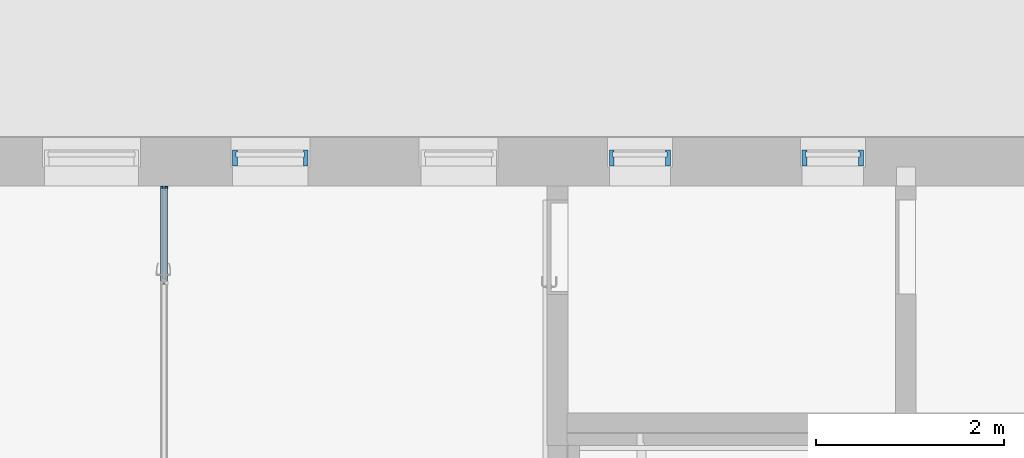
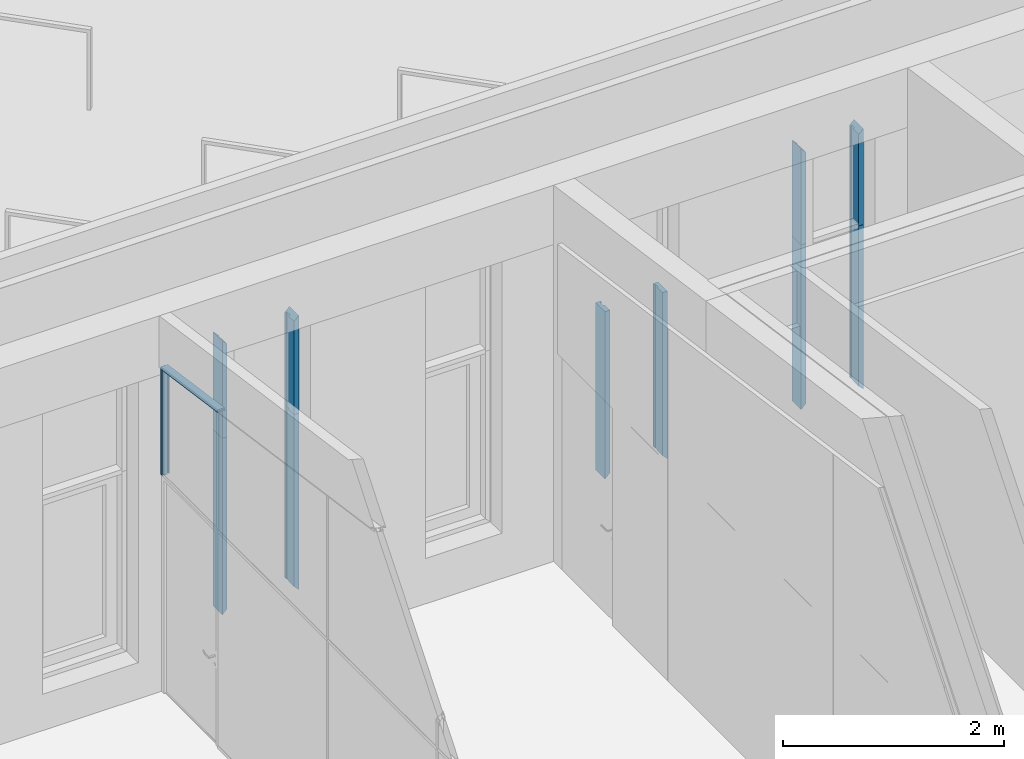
# One storey, part 78 of 246: 12 members, 4 elements without a shape of their own.
"""IFC2X3 building model written with IfcOpenShell, lengths in millimetres."""

from ifc_helpers import new_model, entity, si_unit, converted_unit, derived_unit, money_unit, direction, frame, origin_with_axes, place, context, subcontext, project, spatial, faceted_brep, material, material_list, type_object, element, aggregate, save


model = new_model("IFC2X3")

# Units and contexts
model_context = context("Model", 3, precision=0.01, world=origin_with_axes(), true_north=direction((0.0, 1.0)))
body_context = subcontext(model_context, "Body", "Model", "MODEL_VIEW")
ifc_project = project(units=[si_unit("LENGTHUNIT", "METRE", prefix="MILLI"), si_unit("AREAUNIT", "SQUARE_METRE"), si_unit("VOLUMEUNIT", "CUBIC_METRE"), converted_unit("PLANEANGLEUNIT", "DEGREE", entity("IfcPlaneAngleMeasure", 0.0174532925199), si_unit("PLANEANGLEUNIT", "RADIAN"), dimensions=[0, 0, 0, 0, 0, 0, 0]), si_unit("SOLIDANGLEUNIT", "STERADIAN"), money_unit("EUR"), converted_unit("TIMEUNIT", "Year", entity("IfcTimeMeasure", 31556926.0), si_unit("TIMEUNIT", "SECOND"), dimensions=[0, 0, 1, 0, 0, 0, 0]), si_unit("MASSUNIT", "GRAM", prefix="KILO"), si_unit("THERMODYNAMICTEMPERATUREUNIT", "DEGREE_CELSIUS"), si_unit("LUMINOUSINTENSITYUNIT", "LUMEN"), si_unit("ENERGYUNIT", "JOULE", prefix="MEGA"), derived_unit("THERMALCONDUCTANCEUNIT", [(si_unit("POWERUNIT", "WATT"), 1), (si_unit("LENGTHUNIT", "METRE"), -1), (si_unit("THERMODYNAMICTEMPERATUREUNIT", "KELVIN"), -1)]), derived_unit("SPECIFICHEATCAPACITYUNIT", [(si_unit("ENERGYUNIT", "JOULE"), 1), (si_unit("MASSUNIT", "GRAM", prefix="KILO"), -1), (si_unit("THERMODYNAMICTEMPERATUREUNIT", "KELVIN"), -1)]), derived_unit("MASSDENSITYUNIT", [(si_unit("MASSUNIT", "GRAM", prefix="KILO"), 1), (si_unit("VOLUMEUNIT", "CUBIC_METRE"), -1)])], contexts=[model_context])

# Site, building, storey
site_placement = place(None, origin_with_axes())
site = spatial("IfcSite", under=ifc_project, at=site_placement, Name="L.Koidula tn 11b", CompositionType="ELEMENT")
building_placement = place(site_placement, origin_with_axes())
building = spatial("IfcBuilding", under=site, at=building_placement, Name="Rakvere Riigigümnaasium", CompositionType="ELEMENT")
storey_placement = place(building_placement, origin_with_axes())
storey = spatial("IfcBuildingStorey", under=building, at=storey_placement, Name="1.korrus 0,00", CompositionType="ELEMENT", Elevation=0.0)

# Curtain wall, members
curtain_wall_type = type_object("IfcCurtainWallType", Name="Curtain Wall Type", PredefinedType="NOTDEFINED")
curtain_wall_1_placement = place(storey_placement, frame((39944.5199736, 71934.4519938, 599.999957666), z_axis=(0.0, 0.0, 1.0), x_axis=(1.0, 0.0, 0.0)))
curtain_wall_1 = element("IfcCurtainWall", 1, at=curtain_wall_1_placement, inside=storey, type_object=curtain_wall_type, Name="KLF-08-10")
ifc_material_1 = material(Name="Alumiiniumprofiil (RAL 7021)")
member_type_1 = type_object("IfcMemberType", Name="Boundary Frame 50 x 170", PredefinedType="MULLION")
member_1_placement = place(curtain_wall_1_placement, frame((-324.999965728, 0.0, 2879.66169896), z_axis=(-1.90892556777e-08, 0.0, -1.0), x_axis=(1.0, 0.0, -1.90892556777e-08)))
member_1 = element("IfcMember", 2, at=member_1_placement, type_object=member_type_1, material=ifc_material_1, Name="KLF-08-48-Profiilid", ObjectType="MULLION", context=body_context, shape_type="Brep", body=[
    faceted_brep([(37.0000202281, 26.0, 1059.66152683), (50.0000202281, 26.0, 1059.66152658), (50.0000202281, 124.0, 1059.66152658), (2.02281498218e-05, 124.0, 1059.66152754), (2.02281498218e-05, -46.0, 1059.66152754), (50.0000202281, -46.0, 1059.66152658), (50.0000202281, -26.0, 1059.66152658), (37.0000202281, -26.0, 1059.66152683), (37.0000007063, 26.0, 36.9999985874), (50.0000009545, 26.0, 49.9999980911), (50.0000009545, 124.0, 49.9999980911), (0.0, 124.0, 0.0), (0.0, -46.0, 0.0), (50.0000009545, -46.0, 49.9999980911), (50.0000009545, -26.0, 49.9999980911), (37.0000007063, -26.0, 36.9999985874)], [[[0, 1, 2, 3, 4, 5, 6, 7]], [[0, 8, 9, 1]], [[9, 10, 2, 1]], [[2, 10, 11, 3]], [[3, 11, 12, 4]], [[4, 12, 13, 5]], [[6, 5, 13, 14]], [[14, 15, 7, 6]], [[7, 15, 8, 0]], [[8, 15, 14, 13, 12, 11, 10, 9]]]),
])
member_2_placement = place(curtain_wall_1_placement, frame((-324.999985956, 0.0, 1820.0001719), z_axis=(0.0, 0.0, -1.0), x_axis=(1.0, 0.0, 0.0)))
member_2 = element("IfcMember", 3, at=member_2_placement, type_object=member_type_1, material=ifc_material_1, Name="KLF-08-43-Profiilid", ObjectType="MULLION", context=body_context, shape_type="Brep", body=[
    faceted_brep([(37.0, 26.0, 1783.0001719), (50.0, 26.0, 1770.0001719), (50.0, 124.0, 1770.0001719), (0.0, 124.0, 1820.0001719), (0.0, -46.0, 1820.0001719), (50.0, -46.0, 1770.0001719), (50.0, -26.0, 1770.0001719), (37.0, -26.0, 1783.0001719), (37.0, 26.0, -4.77231143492e-07), (50.0, 26.0, -4.77231143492e-07), (50.0, 124.0, -4.77231143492e-07), (0.0, 124.0, -4.77231143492e-07), (0.0, -46.0, -4.77231143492e-07), (50.0, -46.0, -4.77231143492e-07), (50.0, -26.0, -4.77231143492e-07), (37.0, -26.0, -4.77231143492e-07)], [[[0, 1, 2, 3, 4, 5, 6, 7]], [[0, 8, 9, 1]], [[9, 10, 2, 1]], [[10, 11, 3, 2]], [[11, 12, 4, 3]], [[12, 13, 5, 4]], [[6, 5, 13, 14]], [[14, 15, 7, 6]], [[7, 15, 8, 0]], [[8, 15, 14, 13, 12, 11, 10, 9]]]),
])
member_3_placement = place(curtain_wall_1_placement, frame((324.999975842, 0.0, 1820.0001719), z_axis=(0.0, 0.0, 1.0), x_axis=(-1.0, 0.0, 0.0)))
member_3 = element("IfcMember", 4, at=member_3_placement, type_object=member_type_1, material=ifc_material_1, Name="KLF-08-46-Profiilid", ObjectType="MULLION", context=body_context, shape_type="Brep", body=[
    faceted_brep([(37.0, 26.0, 1022.66152706), (50.0, 26.0, 1009.66152706), (50.0, 124.0, 1009.66152706), (0.0, 124.0, 1059.66152706), (0.0, -46.0, 1059.66152706), (50.0, -46.0, 1009.66152706), (50.0, -26.0, 1009.66152706), (37.0, -26.0, 1022.66152706), (37.0, 26.0, -1.19992460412e-07), (50.0, 26.0, -1.19992460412e-07), (50.0, 124.0, -1.19992460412e-07), (0.0, 124.0, -1.19992460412e-07), (0.0, -46.0, -1.19992460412e-07), (50.0, -46.0, -1.19992460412e-07), (50.0, -26.0, -1.19992460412e-07), (37.0, -26.0, -1.19992460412e-07)], [[[0, 1, 2, 3, 4, 5, 6, 7]], [[0, 8, 9, 1]], [[9, 10, 2, 1]], [[10, 11, 3, 2]], [[11, 12, 4, 3]], [[12, 13, 5, 4]], [[6, 5, 13, 14]], [[14, 15, 7, 6]], [[7, 15, 8, 0]], [[8, 15, 14, 13, 12, 11, 10, 9]]]),
])
member_4_placement = place(curtain_wall_1_placement, frame((324.999984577, 0.0, 0.0), z_axis=(-4.79970011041e-09, 0.0, 1.0), x_axis=(-1.0, 0.0, -4.79970011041e-09)))
member_4 = element("IfcMember", 5, at=member_4_placement, type_object=member_type_1, material=ifc_material_1, Name="KLF-08-45-Profiilid", ObjectType="MULLION", context=body_context, shape_type="Brep", body=[
    faceted_brep([(36.9999912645, 26.0, 1820.0001722), (49.9999912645, 26.0, 1820.00017226), (49.9999912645, 124.0, 1820.00017226), (-8.735455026e-06, 124.0, 1820.00017202), (-8.735455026e-06, -46.0, 1820.00017202), (49.9999912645, -46.0, 1820.00017226), (49.9999912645, -26.0, 1820.00017226), (36.9999912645, -26.0, 1820.0001722), (36.9999998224, 26.0, 37.0000003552), (49.99999976, 26.0, 50.00000048), (49.99999976, 124.0, 50.00000048), (0.0, 124.0, 0.0), (0.0, -46.0, 0.0), (49.99999976, -46.0, 50.00000048), (49.99999976, -26.0, 50.00000048), (36.9999998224, -26.0, 37.0000003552)], [[[0, 1, 2, 3, 4, 5, 6, 7]], [[0, 8, 9, 1]], [[9, 10, 2, 1]], [[2, 10, 11, 3]], [[3, 11, 12, 4]], [[4, 12, 13, 5]], [[6, 5, 13, 14]], [[14, 15, 7, 6]], [[7, 15, 8, 0]], [[8, 15, 14, 13, 12, 11, 10, 9]]]),
])
aggregate(curtain_wall_1, [member_1, member_2, member_3, member_4])

curtain_wall_2_placement = place(storey_placement, frame((33969.5426693, 71934.5046172, 450.0), z_axis=(0.0, 0.0, 1.0), x_axis=(1.0, 0.0, 0.0)))
curtain_wall_2 = element("IfcCurtainWall", 6, at=curtain_wall_2_placement, inside=storey, type_object=curtain_wall_type, Name="KLF-08-07")
member_5_placement = place(curtain_wall_2_placement, frame((-400.003558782, 0.0, 3029.66153933), z_axis=(-1.30369472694e-08, 0.0, -1.0), x_axis=(1.0, 0.0, -1.30369472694e-08)))
member_5 = element("IfcMember", 7, at=member_5_placement, type_object=member_type_1, material=ifc_material_1, Name="KLF-08-58-Profiilid", ObjectType="MULLION", context=body_context, shape_type="Brep", body=[
    faceted_brep([(37.0000140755, 26.0, 1079.66143651), (50.0000140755, 26.0, 1079.66143634), (50.0000140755, 124.0, 1079.66143634), (1.40754892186e-05, 124.0, 1079.66143699), (1.40754892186e-05, -46.0, 1079.66143699), (50.0000140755, -46.0, 1079.66143634), (50.0000140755, -26.0, 1079.66143634), (37.0000140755, -26.0, 1079.66143651), (37.0000004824, 26.0, 36.9999990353), (50.0000006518, 26.0, 49.9999986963), (50.0000006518, 124.0, 49.9999986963), (0.0, 124.0, 0.0), (0.0, -46.0, 0.0), (50.0000006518, -46.0, 49.9999986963), (50.0000006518, -26.0, 49.9999986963), (37.0000004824, -26.0, 36.9999990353)], [[[0, 1, 2, 3, 4, 5, 6, 7]], [[0, 8, 9, 1]], [[9, 10, 2, 1]], [[2, 10, 11, 3]], [[3, 11, 12, 4]], [[4, 12, 13, 5]], [[6, 5, 13, 14]], [[14, 15, 7, 6]], [[7, 15, 8, 0]], [[8, 15, 14, 13, 12, 11, 10, 9]]]),
])
member_6_placement = place(curtain_wall_2_placement, frame((-400.003572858, 0.0, 1950.00010267), z_axis=(0.0, 0.0, -1.0), x_axis=(1.0, 0.0, 0.0)))
member_6 = element("IfcMember", 8, at=member_6_placement, type_object=member_type_1, material=ifc_material_1, Name="KLF-08-53-Profiilid", ObjectType="MULLION", context=body_context, shape_type="Brep", body=[
    faceted_brep([(37.0, 26.0, 1913.00010267), (50.0, 26.0, 1900.00010267), (50.0, 124.0, 1900.00010267), (0.0, 124.0, 1950.00010267), (0.0, -46.0, 1950.00010267), (50.0, -46.0, 1900.00010267), (50.0, -26.0, 1900.00010267), (37.0, -26.0, 1913.00010267), (37.0, 26.0, -3.25923732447e-07), (50.0, 26.0, -3.25923732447e-07), (50.0, 124.0, -3.25923732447e-07), (0.0, 124.0, -3.25923732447e-07), (0.0, -46.0, -3.25923732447e-07), (50.0, -46.0, -3.25923732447e-07), (50.0, -26.0, -3.25923732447e-07), (37.0, -26.0, -3.25923732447e-07)], [[[0, 1, 2, 3, 4, 5, 6, 7]], [[0, 8, 9, 1]], [[9, 10, 2, 1]], [[10, 11, 3, 2]], [[11, 12, 4, 3]], [[12, 13, 5, 4]], [[6, 5, 13, 14]], [[14, 15, 7, 6]], [[7, 15, 8, 0]], [[8, 15, 14, 13, 12, 11, 10, 9]]]),
])
member_7_placement = place(curtain_wall_2_placement, frame((400.00356582, 0.0, 1950.00010267), z_axis=(0.0, 0.0, 1.0), x_axis=(-1.0, 0.0, 0.0)))
member_7 = element("IfcMember", 9, at=member_7_placement, type_object=member_type_1, material=ifc_material_1, Name="KLF-08-56-Profiilid", ObjectType="MULLION", context=body_context, shape_type="Brep", body=[
    faceted_brep([(37.0, 26.0, 1042.66143667), (50.0, 26.0, 1029.66143667), (50.0, 124.0, 1029.66143667), (0.0, 124.0, 1079.66143667), (0.0, -46.0, 1079.66143667), (50.0, -46.0, 1029.66143667), (50.0, -26.0, 1029.66143667), (37.0, -26.0, 1042.66143667), (37.0, 26.0, -2.26300311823e-07), (50.0, 26.0, -2.26300311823e-07), (50.0, 124.0, -2.26300311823e-07), (0.0, 124.0, -2.26300311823e-07), (0.0, -46.0, -2.26300311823e-07), (50.0, -46.0, -2.26300311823e-07), (50.0, -26.0, -2.26300311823e-07), (37.0, -26.0, -2.26300311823e-07)], [[[0, 1, 2, 3, 4, 5, 6, 7]], [[0, 8, 9, 1]], [[9, 10, 2, 1]], [[10, 11, 3, 2]], [[11, 12, 4, 3]], [[12, 13, 5, 4]], [[6, 5, 13, 14]], [[14, 15, 7, 6]], [[7, 15, 8, 0]], [[8, 15, 14, 13, 12, 11, 10, 9]]]),
])
member_8_placement = place(curtain_wall_2_placement, frame((400.003583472, 0.0, 0.0), z_axis=(-9.05200789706e-09, 0.0, 1.0), x_axis=(-1.0, 0.0, -9.05200789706e-09)))
member_8 = element("IfcMember", 10, at=member_8_placement, type_object=member_type_1, material=ifc_material_1, Name="KLF-08-55-Profiilid", ObjectType="MULLION", context=body_context, shape_type="Brep", body=[
    faceted_brep([(36.9999823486, 26.0, 1950.00010323), (49.9999823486, 26.0, 1950.00010334), (49.9999823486, 124.0, 1950.00010334), (-1.76514163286e-05, 124.0, 1950.00010289), (-1.76514163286e-05, -46.0, 1950.00010289), (49.9999823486, -46.0, 1950.00010334), (49.9999823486, -26.0, 1950.00010334), (36.9999823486, -26.0, 1950.00010323), (36.9999996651, 26.0, 37.0000006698), (49.9999995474, 26.0, 50.0000009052), (49.9999995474, 124.0, 50.0000009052), (0.0, 124.0, 0.0), (0.0, -46.0, 0.0), (49.9999995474, -46.0, 50.0000009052), (49.9999995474, -26.0, 50.0000009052), (36.9999996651, -26.0, 37.0000006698)], [[[0, 1, 2, 3, 4, 5, 6, 7]], [[0, 8, 9, 1]], [[9, 10, 2, 1]], [[2, 10, 11, 3]], [[3, 11, 12, 4]], [[4, 12, 13, 5]], [[6, 5, 13, 14]], [[14, 15, 7, 6]], [[7, 15, 8, 0]], [[8, 15, 14, 13, 12, 11, 10, 9]]]),
])
aggregate(curtain_wall_2, [member_5, member_6, member_7, member_8])

curtain_wall_3_placement = place(storey_placement, frame((37894.5353831, 71934.4519938, 550.0), z_axis=(0.0, 0.0, 1.0), x_axis=(1.0, 0.0, 0.0)))
curtain_wall_3 = element("IfcCurtainWall", 11, at=curtain_wall_3_placement, inside=storey, type_object=curtain_wall_type, Name="KLF-08-09")
member_9_placement = place(curtain_wall_3_placement, frame((-325.000094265, 0.0, 1850.00012484), z_axis=(0.0, 0.0, -1.0), x_axis=(1.0, 0.0, 0.0)))
member_9 = element("IfcMember", 12, at=member_9_placement, type_object=member_type_1, material=ifc_material_1, Name="KLF-08-42-Profiilid", ObjectType="MULLION", context=body_context, shape_type="Brep", body=[
    faceted_brep([(37.0, 26.0, 1813.00012484), (50.0, 26.0, 1800.00012484), (50.0, 124.0, 1800.00012484), (0.0, 124.0, 1850.00012484), (0.0, -46.0, 1850.00012484), (50.0, -46.0, 1800.00012484), (50.0, -26.0, 1800.00012484), (37.0, -26.0, 1813.00012484), (37.0, 26.0, -4.3651304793e-07), (50.0, 26.0, -4.3651304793e-07), (50.0, 124.0, -4.3651304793e-07), (0.0, 124.0, -4.3651304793e-07), (0.0, -46.0, -4.3651304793e-07), (50.0, -46.0, -4.3651304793e-07), (50.0, -26.0, -4.3651304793e-07), (37.0, -26.0, -4.3651304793e-07)], [[[0, 1, 2, 3, 4, 5, 6, 7]], [[0, 8, 9, 1]], [[9, 10, 2, 1]], [[10, 11, 3, 2]], [[11, 12, 4, 3]], [[12, 13, 5, 4]], [[6, 5, 13, 14]], [[14, 15, 7, 6]], [[7, 15, 8, 0]], [[8, 15, 14, 13, 12, 11, 10, 9]]]),
])
member_10_placement = place(curtain_wall_3_placement, frame((325.000066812, 0.0, 0.0), z_axis=(9.74287299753e-09, 0.0, 1.0), x_axis=(-1.0, 0.0, 9.74287299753e-09)))
member_10 = element("IfcMember", 13, at=member_10_placement, type_object=member_type_1, material=ifc_material_1, Name="KLF-08-44-Profiilid", ObjectType="MULLION", context=body_context, shape_type="Brep", body=[
    faceted_brep([(37.0000180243, 26.0, 1850.00012473), (50.0000180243, 26.0, 1850.0001246), (50.0000180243, 124.0, 1850.0001246), (1.80243162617e-05, 124.0, 1850.00012509), (1.80243162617e-05, -46.0, 1850.00012509), (50.0000180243, -46.0, 1850.0001246), (50.0000180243, -26.0, 1850.0001246), (37.0000180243, -26.0, 1850.00012473), (37.0000003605, 26.0, 36.999999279), (50.0000004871, 26.0, 49.9999990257), (50.0000004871, 124.0, 49.9999990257), (0.0, 124.0, 0.0), (0.0, -46.0, 0.0), (50.0000004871, -46.0, 49.9999990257), (50.0000004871, -26.0, 49.9999990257), (37.0000003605, -26.0, 36.999999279)], [[[0, 1, 2, 3, 4, 5, 6, 7]], [[0, 8, 9, 1]], [[9, 10, 2, 1]], [[2, 10, 11, 3]], [[3, 11, 12, 4]], [[4, 12, 13, 5]], [[6, 5, 13, 14]], [[14, 15, 7, 6]], [[7, 15, 8, 0]], [[8, 15, 14, 13, 12, 11, 10, 9]]]),
])
aggregate(curtain_wall_3, [member_9, member_10])

curtain_wall_4_placement = place(storey_placement, frame((32835.0202258, 67589.2016838, 0.0), z_axis=(0.0, 0.0, 1.0), x_axis=(1.0, 0.0, 0.0)))
curtain_wall_4 = element("IfcCurtainWall", 14, at=curtain_wall_4_placement, inside=storey, type_object=curtain_wall_type, Name="SKLF-02")
ifc_material_2 = material(Name="Klaasvill")
ifc_material_3 = material(Name="Teras RAL7012")
ifc_material_list = material_list([ifc_material_2, ifc_material_3])
member_type_2 = type_object("IfcMemberType", Name="Boundary Frame 30 x 42", PredefinedType="MULLION")
member_11_placement = place(curtain_wall_4_placement, frame((0.0, 4011.25, 2400.0), z_axis=(0.0, 0.0, 1.0), x_axis=(0.0, 1.0, 0.0)))
member_11 = element("IfcMember", 15, at=member_11_placement, type_object=member_type_2, material=ifc_material_list, Name="SKLF-19-raam", ObjectType="MULLION", context=body_context, shape_type="Brep", body=[
    faceted_brep([(-7.49999990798, 15.000000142, 0.0), (-7.49999990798, 15.000000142, 1183.52396396), (-13.8499999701, 15.000000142, 1178.01389696), (-13.8499999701, 15.000000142, 0.0), (-7.49999990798, 29.0161444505, 0.0), (-7.49999990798, 29.0161444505, 1183.52396396), (-13.8499999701, 29.0161444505, 1178.01389696), (-13.8499999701, 29.0161444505, 0.0)], [[[0, 1, 2, 3]], [[4, 5, 1, 0]], [[1, 5, 6, 2]], [[3, 2, 6, 7]], [[0, 3, 7, 4]], [[7, 6, 5, 4]]]),
    faceted_brep([(-24.987414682, 29.0161444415, 0.0), (-24.987414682, 29.0161444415, 1168.34966063), (-25.004489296, 27.0307503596, 1168.33484453), (-25.004489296, 27.0307503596, 0.0), (-28.5126239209, 29.0161444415, 0.0), (-28.5126239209, 29.0161444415, 1165.29074112), (-28.7655837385, 28.0385325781, 1165.07124104), (-28.4955493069, 27.0307503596, 1165.30555723), (-27.75780152, 26.2930025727, 1165.94572096), (-26.7500193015, 26.0229681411, 1166.82020088), (-25.742237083, 26.2930025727, 1167.6946808), (-25.742237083, 26.2930025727, 0.0), (-26.7500193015, 26.0229681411, 0.0), (-27.75780152, 26.2930025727, 0.0), (-28.4955493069, 27.0307503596, 0.0), (-28.7655837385, 28.0385325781, 0.0)], [[[0, 1, 2, 3]], [[4, 5, 1, 0]], [[1, 5, 6, 7, 8, 9, 10, 2]], [[3, 2, 10, 11]], [[0, 3, 11, 12, 13, 14, 15, 4]], [[15, 6, 5, 4]], [[14, 7, 6, 15]], [[13, 8, 7, 14]], [[12, 9, 8, 13]], [[11, 10, 9, 12]]]),
    faceted_brep([(-7.49999990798, -24.9999997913, 0.0), (-7.49999990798, -24.9999997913, 1183.52396396), (-7.49999990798, -39.0161445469, 1183.52396396), (-7.49999990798, -39.0161445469, 0.0), (-13.8499999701, -24.9999997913, 0.0), (-13.8499999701, -24.9999997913, 1178.01389696), (-13.8499999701, -39.0161445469, 1178.01389696), (-13.8499999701, -39.0161445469, 0.0)], [[[0, 1, 2, 3]], [[4, 5, 1, 0]], [[1, 5, 6, 2]], [[3, 2, 6, 7]], [[0, 3, 7, 4]], [[7, 6, 5, 4]]]),
    faceted_brep([(-25.004489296, -37.0307503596, 0.0), (-25.004489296, -37.0307503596, 1168.33484453), (-24.987414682, -39.0161444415, 1168.34966063), (-24.987414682, -39.0161444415, 0.0), (-25.742237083, -36.2930025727, 0.0), (-25.742237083, -36.2930025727, 1167.6946808), (-26.7500193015, -36.0229681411, 1166.82020088), (-27.75780152, -36.2930025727, 1165.94572096), (-28.4955493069, -37.0307503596, 1165.30555723), (-28.7655837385, -38.0385325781, 1165.07124104), (-28.5126239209, -39.0161444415, 1165.29074112), (-28.5126239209, -39.0161444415, 0.0), (-28.7655837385, -38.0385325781, 0.0), (-28.4955493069, -37.0307503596, 0.0), (-27.75780152, -36.2930025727, 0.0), (-26.7500193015, -36.0229681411, 0.0)], [[[0, 1, 2, 3]], [[4, 5, 1, 0]], [[1, 5, 6, 7, 8, 9, 10, 2]], [[3, 2, 10, 11]], [[0, 3, 11, 12, 13, 14, 15, 4]], [[15, 6, 5, 4]], [[14, 7, 6, 15]], [[13, 8, 7, 14]], [[12, 9, 8, 13]], [[11, 10, 9, 12]]]),
    faceted_brep([(0.0, -22.0000000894, 0.0), (0.0, -22.0000000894, 1190.03191697), (-29.5999996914, -22.0000000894, 1164.34719572), (-29.5999996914, -22.0000000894, 0.0), (0.0, 12.0000000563, 0.0), (0.0, 12.0000000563, 1190.03191697), (-29.5999996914, 12.0000000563, 1164.34719572), (-1.9999999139, 10.0000001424, 1188.29646289), (-1.9999999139, -20.0000001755, 1188.29646289), (-18.7999996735, -20.0000001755, 1173.71864818), (-18.7999996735, 10.0000001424, 1173.71864818), (-29.5999996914, 12.0000000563, 0.0), (-1.9999999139, 10.0000001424, 0.0), (-18.7999996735, 10.0000001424, 0.0), (-18.7999996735, -20.0000001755, 0.0), (-1.9999999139, -20.0000001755, 0.0)], [[[0, 1, 2, 3]], [[4, 5, 1, 0]], [[1, 5, 6, 2], [7, 8, 9, 10]], [[3, 2, 6, 11]], [[0, 3, 11, 4], [12, 13, 14, 15]], [[11, 6, 5, 4]], [[15, 8, 7, 12]], [[14, 9, 8, 15]], [[13, 10, 9, 14]], [[12, 7, 10, 13]]]),
    faceted_brep([(0.0, 12.0, 0.0), (0.0, 12.0, 1190.03191697), (-29.5999996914, 12.0000000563, 1164.34719572), (-29.5999996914, 12.0000000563, 0.0), (0.0, 32.0, 0.0), (0.0, 32.0, 1190.03191697), (-30.0000193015, 32.0, 1164.00008787), (-30.0000193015, 29.0161444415, 1164.00008787), (-28.5126239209, 29.0161444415, 1165.29074112), (-24.987414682, 29.0161444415, 1168.34966063), (-13.8499999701, 29.0161444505, 1178.01389696), (-7.49999999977, 29.0161444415, 1183.52396388), (-7.49999999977, 15.0, 1183.52396388), (-13.8499999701, 15.000000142, 1178.01389696), (-30.0000193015, 15.0, 1164.00008787), (-30.0000193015, 12.0, 1164.00008787), (-30.0000193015, 12.0, 0.0), (-30.0000193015, 15.0, 0.0), (-13.8499999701, 15.000000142, 0.0), (-7.49999999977, 15.0, 0.0), (-7.49999999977, 29.0161444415, 0.0), (-13.8499999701, 29.0161444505, 0.0), (-24.987414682, 29.0161444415, 0.0), (-28.5126239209, 29.0161444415, 0.0), (-30.0000193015, 29.0161444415, 0.0), (-30.0000193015, 32.0, 0.0)], [[[0, 1, 2, 3]], [[4, 5, 1, 0]], [[1, 5, 6, 7, 8, 9, 10, 11, 12, 13, 14, 15, 2]], [[3, 2, 15, 16]], [[0, 3, 16, 17, 18, 19, 20, 21, 22, 23, 24, 25, 4]], [[25, 6, 5, 4]], [[24, 7, 6, 25]], [[23, 8, 7, 24]], [[22, 9, 8, 23]], [[21, 10, 9, 22]], [[20, 11, 10, 21]], [[19, 12, 11, 20]], [[18, 13, 12, 19]], [[17, 14, 13, 18]], [[16, 15, 14, 17]]]),
    faceted_brep([(0.0, -22.0, 0.0), (0.0, -22.0, 1190.03191697), (0.0, -42.0, 1190.03191697), (0.0, -42.0, 0.0), (-29.5999996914, -22.0000000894, 0.0), (-29.5999996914, -22.0000000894, 1164.34719572), (-30.0000193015, -22.0, 1164.00008787), (-30.0000193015, -25.0, 1164.00008787), (-13.8499999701, -24.9999997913, 1178.01389696), (-7.49999999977, -25.0, 1183.52396388), (-7.49999999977, -39.0161444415, 1183.52396388), (-13.8499999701, -39.0161445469, 1178.01389696), (-24.987414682, -39.0161444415, 1168.34966063), (-28.5126239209, -39.0161444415, 1165.29074112), (-30.0000193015, -39.0161444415, 1164.00008787), (-30.0000193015, -42.0, 1164.00008787), (-30.0000193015, -42.0, 0.0), (-30.0000193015, -39.0161444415, 0.0), (-28.5126239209, -39.0161444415, 0.0), (-24.987414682, -39.0161444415, 0.0), (-13.8499999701, -39.0161445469, 0.0), (-7.49999999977, -39.0161444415, 0.0), (-7.49999999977, -25.0, 0.0), (-13.8499999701, -24.9999997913, 0.0), (-30.0000193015, -25.0, 0.0), (-30.0000193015, -22.0, 0.0)], [[[0, 1, 2, 3]], [[4, 5, 1, 0]], [[1, 5, 6, 7, 8, 9, 10, 11, 12, 13, 14, 15, 2]], [[3, 2, 15, 16]], [[0, 3, 16, 17, 18, 19, 20, 21, 22, 23, 24, 25, 4]], [[25, 6, 5, 4]], [[24, 7, 6, 25]], [[23, 8, 7, 24]], [[22, 9, 8, 23]], [[21, 10, 9, 22]], [[20, 11, 10, 21]], [[19, 12, 11, 20]], [[18, 13, 12, 19]], [[17, 14, 13, 18]], [[16, 15, 14, 17]]]),
])
member_12_placement = place(curtain_wall_4_placement, frame((0.0, 2981.25, 3736.6570574), z_axis=(0.0, 0.990019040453, -0.140933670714), x_axis=(0.0, -0.140933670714, -0.990019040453)))
member_12 = element("IfcMember", 16, at=member_12_placement, type_object=member_type_2, material=ifc_material_list, Name="SKLF-18-raam", ObjectType="MULLION", context=body_context, shape_type="Brep", body=[
    faceted_brep([(7.49999990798, 15.000000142, -2.00858402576e-07), (13.8499999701, 15.000000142, -2.00858402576e-07), (13.8499999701, 15.000000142, 1028.36601092), (7.49999990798, 15.000000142, 1033.87607792), (7.49999990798, 29.0161444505, -2.00858402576e-07), (13.8499999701, 29.0161444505, -2.00858402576e-07), (13.8499999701, 29.0161444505, 1028.36601092), (7.49999990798, 29.0161444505, 1033.87607792)], [[[0, 1, 2, 3]], [[0, 4, 5, 1]], [[1, 5, 6, 2]], [[3, 2, 6, 7]], [[4, 0, 3, 7]], [[5, 4, 7, 6]]]),
    faceted_brep([(24.987414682, 29.0161444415, -2.00858402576e-07), (25.004489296, 27.0307503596, -2.00858402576e-07), (25.004489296, 27.0307503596, 1018.68695849), (24.987414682, 29.0161444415, 1018.70177459), (28.5126239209, 29.0161444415, -2.00858402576e-07), (28.7655837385, 28.0385325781, -2.00858402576e-07), (28.4955493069, 27.0307503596, -2.00858402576e-07), (27.75780152, 26.2930025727, -2.00858402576e-07), (26.7500193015, 26.0229681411, -2.00858402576e-07), (25.742237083, 26.2930025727, -2.00858402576e-07), (25.742237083, 26.2930025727, 1018.04679476), (26.7500193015, 26.0229681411, 1017.17231484), (27.75780152, 26.2930025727, 1016.29783492), (28.4955493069, 27.0307503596, 1015.65767119), (28.7655837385, 28.0385325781, 1015.423355), (28.5126239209, 29.0161444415, 1015.64285508)], [[[0, 1, 2, 3]], [[0, 4, 5, 6, 7, 8, 9, 1]], [[1, 9, 10, 2]], [[3, 2, 10, 11, 12, 13, 14, 15]], [[4, 0, 3, 15]], [[5, 4, 15, 14]], [[6, 5, 14, 13]], [[7, 6, 13, 12]], [[8, 7, 12, 11]], [[9, 8, 11, 10]]]),
    faceted_brep([(7.49999990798, -24.9999997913, -2.00858402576e-07), (7.49999990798, -39.0161445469, -2.00858402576e-07), (7.49999990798, -39.0161445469, 1033.87607792), (7.49999990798, -24.9999997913, 1033.87607792), (13.8499999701, -24.9999997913, -2.00858402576e-07), (13.8499999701, -39.0161445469, -2.00858402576e-07), (13.8499999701, -39.0161445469, 1028.36601092), (13.8499999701, -24.9999997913, 1028.36601092)], [[[0, 1, 2, 3]], [[0, 4, 5, 1]], [[1, 5, 6, 2]], [[3, 2, 6, 7]], [[4, 0, 3, 7]], [[5, 4, 7, 6]]]),
    faceted_brep([(25.004489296, -37.0307503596, -2.00858402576e-07), (24.987414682, -39.0161444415, -2.00858402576e-07), (24.987414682, -39.0161444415, 1018.70177459), (25.004489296, -37.0307503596, 1018.68695849), (25.742237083, -36.2930025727, -2.00858402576e-07), (26.7500193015, -36.0229681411, -2.00858402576e-07), (27.75780152, -36.2930025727, -2.00858402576e-07), (28.4955493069, -37.0307503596, -2.00858402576e-07), (28.7655837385, -38.0385325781, -2.00858402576e-07), (28.5126239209, -39.0161444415, -2.00858402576e-07), (28.5126239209, -39.0161444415, 1015.64285508), (28.7655837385, -38.0385325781, 1015.423355), (28.4955493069, -37.0307503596, 1015.65767119), (27.75780152, -36.2930025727, 1016.29783492), (26.7500193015, -36.0229681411, 1017.17231484), (25.742237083, -36.2930025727, 1018.04679476)], [[[0, 1, 2, 3]], [[0, 4, 5, 6, 7, 8, 9, 1]], [[1, 9, 10, 2]], [[3, 2, 10, 11, 12, 13, 14, 15]], [[4, 0, 3, 15]], [[5, 4, 15, 14]], [[6, 5, 14, 13]], [[7, 6, 13, 12]], [[8, 7, 12, 11]], [[9, 8, 11, 10]]]),
    faceted_brep([(0.0, -22.0000000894, -2.00858402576e-07), (29.5999996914, -22.0000000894, -2.00858402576e-07), (29.5999996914, -22.0000000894, 1014.69930968), (0.0, -22.0000000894, 1040.38403093), (0.0, 12.0000000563, -2.00858402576e-07), (29.5999996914, 12.0000000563, -2.00858402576e-07), (1.9999999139, 10.0000001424, -2.00858402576e-07), (1.9999999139, -20.0000001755, -2.00858402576e-07), (18.7999996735, -20.0000001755, -2.00858402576e-07), (18.7999996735, 10.0000001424, -2.00858402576e-07), (29.5999996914, 12.0000000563, 1014.69930968), (0.0, 12.0000000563, 1040.38403093), (1.9999999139, 10.0000001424, 1038.64857684), (18.7999996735, 10.0000001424, 1024.07076214), (18.7999996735, -20.0000001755, 1024.07076214), (1.9999999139, -20.0000001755, 1038.64857684)], [[[0, 1, 2, 3]], [[0, 4, 5, 1], [6, 7, 8, 9]], [[1, 5, 10, 2]], [[3, 2, 10, 11], [12, 13, 14, 15]], [[4, 0, 3, 11]], [[5, 4, 11, 10]], [[7, 6, 12, 15]], [[8, 7, 15, 14]], [[9, 8, 14, 13]], [[6, 9, 13, 12]]]),
    faceted_brep([(0.0, 12.0, -2.00858402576e-07), (29.5999996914, 12.0000000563, -2.00858402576e-07), (29.5999996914, 12.0000000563, 1014.69930968), (0.0, 12.0, 1040.38403093), (0.0, 32.0, -2.00858402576e-07), (30.0000193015, 32.0, -2.00858402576e-07), (30.0000193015, 29.0161444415, -2.00858402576e-07), (28.5126239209, 29.0161444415, -2.00858402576e-07), (24.987414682, 29.0161444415, -2.00858402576e-07), (13.8499999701, 29.0161444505, -2.00858402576e-07), (7.49999999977, 29.0161444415, -2.00858402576e-07), (7.49999999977, 15.0, -2.00858402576e-07), (13.8499999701, 15.000000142, -2.00858402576e-07), (30.0000193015, 15.0, -2.00858402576e-07), (30.0000193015, 12.0, -2.00858402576e-07), (30.0000193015, 12.0, 1014.35220183), (30.0000193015, 15.0, 1014.35220183), (13.8499999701, 15.000000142, 1028.36601092), (7.49999999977, 15.0, 1033.87607784), (7.49999999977, 29.0161444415, 1033.87607784), (13.8499999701, 29.0161444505, 1028.36601092), (24.987414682, 29.0161444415, 1018.70177459), (28.5126239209, 29.0161444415, 1015.64285508), (30.0000193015, 29.0161444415, 1014.35220183), (30.0000193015, 32.0, 1014.35220183), (0.0, 32.0, 1040.38403093)], [[[0, 1, 2, 3]], [[0, 4, 5, 6, 7, 8, 9, 10, 11, 12, 13, 14, 1]], [[1, 14, 15, 2]], [[3, 2, 15, 16, 17, 18, 19, 20, 21, 22, 23, 24, 25]], [[4, 0, 3, 25]], [[5, 4, 25, 24]], [[6, 5, 24, 23]], [[7, 6, 23, 22]], [[8, 7, 22, 21]], [[9, 8, 21, 20]], [[10, 9, 20, 19]], [[11, 10, 19, 18]], [[12, 11, 18, 17]], [[13, 12, 17, 16]], [[14, 13, 16, 15]]]),
    faceted_brep([(0.0, -22.0, -2.00858402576e-07), (0.0, -42.0, -2.00858402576e-07), (0.0, -42.0, 1040.38403093), (0.0, -22.0, 1040.38403093), (29.5999996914, -22.0000000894, -2.00858402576e-07), (30.0000193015, -22.0, -2.00858402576e-07), (30.0000193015, -25.0, -2.00858402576e-07), (13.8499999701, -24.9999997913, -2.00858402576e-07), (7.49999999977, -25.0, -2.00858402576e-07), (7.49999999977, -39.0161444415, -2.00858402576e-07), (13.8499999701, -39.0161445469, -2.00858402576e-07), (24.987414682, -39.0161444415, -2.00858402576e-07), (28.5126239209, -39.0161444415, -2.00858402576e-07), (30.0000193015, -39.0161444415, -2.00858402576e-07), (30.0000193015, -42.0, -2.00858402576e-07), (30.0000193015, -42.0, 1014.35220183), (30.0000193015, -39.0161444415, 1014.35220183), (28.5126239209, -39.0161444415, 1015.64285508), (24.987414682, -39.0161444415, 1018.70177459), (13.8499999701, -39.0161445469, 1028.36601092), (7.49999999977, -39.0161444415, 1033.87607784), (7.49999999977, -25.0, 1033.87607784), (13.8499999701, -24.9999997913, 1028.36601092), (30.0000193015, -25.0, 1014.35220183), (30.0000193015, -22.0, 1014.35220183), (29.5999996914, -22.0000000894, 1014.69930968)], [[[0, 1, 2, 3]], [[0, 4, 5, 6, 7, 8, 9, 10, 11, 12, 13, 14, 1]], [[1, 14, 15, 2]], [[3, 2, 15, 16, 17, 18, 19, 20, 21, 22, 23, 24, 25]], [[4, 0, 3, 25]], [[5, 4, 25, 24]], [[6, 5, 24, 23]], [[7, 6, 23, 22]], [[8, 7, 22, 21]], [[9, 8, 21, 20]], [[10, 9, 20, 19]], [[11, 10, 19, 18]], [[12, 11, 18, 17]], [[13, 12, 17, 16]], [[14, 13, 16, 15]]]),
])
aggregate(curtain_wall_4, [member_11, member_12])

save(model, "model.ifc")
